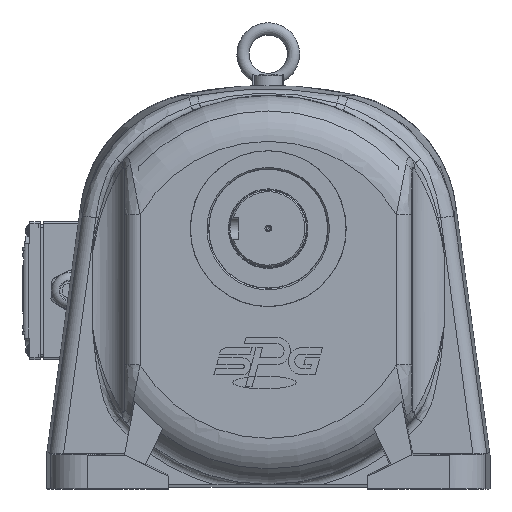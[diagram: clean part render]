
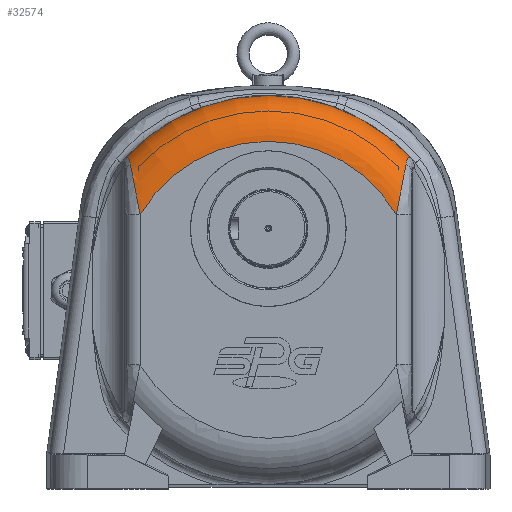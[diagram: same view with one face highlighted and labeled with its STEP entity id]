
A CAD part, top view. The second image highlights one B-rep face of the part: STEP entity #32574.
In plain terms, the highlighted toroidal (fillet/blend) face has major radius 97.099 mm and minor radius 30 mm.
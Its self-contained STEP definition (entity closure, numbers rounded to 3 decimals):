
#540=TOROIDAL_SURFACE('',#35468,97.099,30.);
#2292=FACE_OUTER_BOUND('',#4222,.T.);
#4222=EDGE_LOOP('',(#25025,#25026,#25027,#25028,#25029,#25030));
#6257=CIRCLE('',#35409,97.099);
#6301=CIRCLE('',#35469,127.093);
#12225=B_SPLINE_CURVE_WITH_KNOTS('',3,(#54015,#54016,#54017,#54018,#54019,
#54020),.UNSPECIFIED.,.F.,.F.,(4,1,1,4),(-1.203,-0.859,
-0.515,0.),.UNSPECIFIED.);
#12227=B_SPLINE_CURVE_WITH_KNOTS('',3,(#54108,#54109,#54110,#54111,#54112,
#54113,#54114),.UNSPECIFIED.,.F.,.F.,(4,1,1,1,4),(-2.952,-2.53,
-2.109,-1.265,0.),.UNSPECIFIED.);
#12237=B_SPLINE_CURVE_WITH_KNOTS('',3,(#54605,#54606,#54607,#54608,#54609,
#54610,#54611,#54612),.UNSPECIFIED.,.F.,.F.,(4,1,1,1,1,4),(-2.954,
-2.11,-1.266,-0.844,-0.422,
0.),.UNSPECIFIED.);
#12238=B_SPLINE_CURVE_WITH_KNOTS('',3,(#54650,#54651,#54652,#54653,#54654,
#54655,#54656),.UNSPECIFIED.,.F.,.F.,(4,1,1,1,4),(-1.203,-0.859,
-0.516,-0.344,0.),.UNSPECIFIED.);
#14134=VERTEX_POINT('',#53371);
#14136=VERTEX_POINT('',#53375);
#14197=VERTEX_POINT('',#54012);
#14198=VERTEX_POINT('',#54014);
#14208=VERTEX_POINT('',#54604);
#14209=VERTEX_POINT('',#54649);
#17947=EDGE_CURVE('',#14134,#14136,#6257,.T.);
#18013=EDGE_CURVE('',#14197,#14198,#12225,.T.);
#18017=EDGE_CURVE('',#14198,#14136,#12227,.T.);
#18035=EDGE_CURVE('',#14134,#14208,#12237,.T.);
#18037=EDGE_CURVE('',#14208,#14209,#12238,.T.);
#18078=EDGE_CURVE('',#14197,#14209,#6301,.T.);
#25025=ORIENTED_EDGE('',*,*,#18078,.T.);
#25026=ORIENTED_EDGE('',*,*,#18037,.F.);
#25027=ORIENTED_EDGE('',*,*,#18035,.F.);
#25028=ORIENTED_EDGE('',*,*,#17947,.T.);
#25029=ORIENTED_EDGE('',*,*,#18017,.F.);
#25030=ORIENTED_EDGE('',*,*,#18013,.F.);
#32574=ADVANCED_FACE('',(#2292),#540,.T.);
#35409=AXIS2_PLACEMENT_3D('',#53377,#42222,#42223);
#35468=AXIS2_PLACEMENT_3D('',#55723,#42384,#42385);
#35469=AXIS2_PLACEMENT_3D('',#55724,#42386,#42387);
#42222=DIRECTION('center_axis',(0.,0.,-1.));
#42223=DIRECTION('ref_axis',(-0.521,0.854,0.));
#42384=DIRECTION('center_axis',(0.,0.,-1.));
#42385=DIRECTION('ref_axis',(-1.,0.,0.));
#42386=DIRECTION('center_axis',(0.,0.,1.));
#42387=DIRECTION('ref_axis',(-0.521,0.854,0.));
#53371=CARTESIAN_POINT('',(-99.764,134.317,60.));
#53375=CARTESIAN_POINT('',(67.796,134.317,60.));
#53377=CARTESIAN_POINT('Origin',(-15.984,85.234,60.));
#54012=CARTESIAN_POINT('',(77.631,171.192,30.605));
#54014=CARTESIAN_POINT('',(74.152,167.398,46.783));
#54015=CARTESIAN_POINT('Ctrl Pts',(77.631,171.192,30.605));
#54016=CARTESIAN_POINT('Ctrl Pts',(77.19,171.628,32.094));
#54017=CARTESIAN_POINT('Ctrl Pts',(76.323,172.133,35.314));
#54018=CARTESIAN_POINT('Ctrl Pts',(75.047,171.131,41.285));
#54019=CARTESIAN_POINT('Ctrl Pts',(74.449,168.923,44.936));
#54020=CARTESIAN_POINT('Ctrl Pts',(74.152,167.398,46.783));
#54108=CARTESIAN_POINT('Ctrl Pts',(74.152,167.398,46.783));
#54109=CARTESIAN_POINT('Ctrl Pts',(73.909,166.151,48.294));
#54110=CARTESIAN_POINT('Ctrl Pts',(73.38,163.388,51.016));
#54111=CARTESIAN_POINT('Ctrl Pts',(72.216,157.259,55.228));
#54112=CARTESIAN_POINT('Ctrl Pts',(70.337,147.395,59.151));
#54113=CARTESIAN_POINT('Ctrl Pts',(68.715,139.073,60.));
#54114=CARTESIAN_POINT('Ctrl Pts',(67.796,134.317,60.));
#54604=CARTESIAN_POINT('',(-106.121,167.398,46.783));
#54605=CARTESIAN_POINT('Ctrl Pts',(-99.764,134.317,60.));
#54606=CARTESIAN_POINT('Ctrl Pts',(-100.378,137.49,60.));
#54607=CARTESIAN_POINT('Ctrl Pts',(-101.642,143.984,59.551));
#54608=CARTESIAN_POINT('Ctrl Pts',(-103.243,152.31,57.336));
#54609=CARTESIAN_POINT('Ctrl Pts',(-104.471,158.768,54.193));
#54610=CARTESIAN_POINT('Ctrl Pts',(-105.346,163.375,51.023));
#54611=CARTESIAN_POINT('Ctrl Pts',(-105.878,166.15,48.295));
#54612=CARTESIAN_POINT('Ctrl Pts',(-106.121,167.398,46.783));
#54649=CARTESIAN_POINT('',(-109.6,171.192,30.605));
#54650=CARTESIAN_POINT('Ctrl Pts',(-106.121,167.398,46.783));
#54651=CARTESIAN_POINT('Ctrl Pts',(-106.319,168.415,45.551));
#54652=CARTESIAN_POINT('Ctrl Pts',(-106.763,170.256,42.827));
#54653=CARTESIAN_POINT('Ctrl Pts',(-107.547,171.63,38.74));
#54654=CARTESIAN_POINT('Ctrl Pts',(-108.502,172.001,34.544));
#54655=CARTESIAN_POINT('Ctrl Pts',(-109.159,171.628,32.095));
#54656=CARTESIAN_POINT('Ctrl Pts',(-109.6,171.192,30.605));
#55723=CARTESIAN_POINT('Origin',(-15.984,85.234,30.));
#55724=CARTESIAN_POINT('Origin',(-15.984,85.234,30.605));
